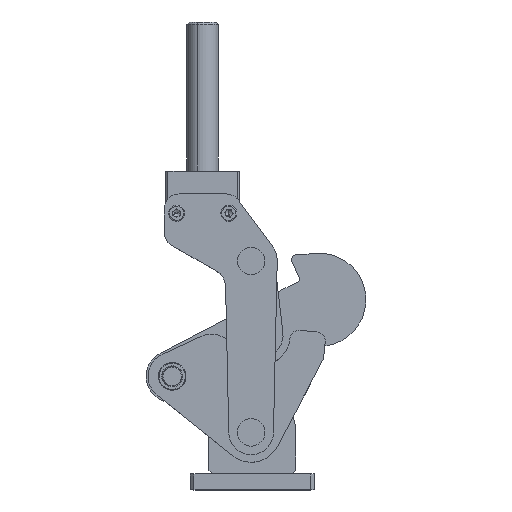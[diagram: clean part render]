
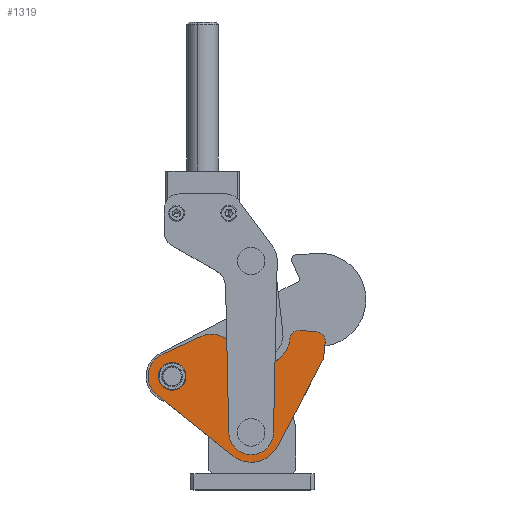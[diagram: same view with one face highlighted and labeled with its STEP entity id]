
A CAD part, top view. The second image highlights one B-rep face of the part: STEP entity #1319.
In plain terms, the highlighted planar face has unit normal (0, 0, 1).
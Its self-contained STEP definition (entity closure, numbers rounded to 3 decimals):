
#1319 = ADVANCED_FACE ( 'NONE', ( #5313, #5323, #5319 ), #6906, .T. ) ;
#1353 = VERTEX_POINT ( 'NONE', #7037 ) ;
#1355 = VERTEX_POINT ( 'NONE', #7040 ) ;
#1378 = VERTEX_POINT ( 'NONE', #6032 ) ;
#1429 = VERTEX_POINT ( 'NONE', #6748 ) ;
#1483 = VERTEX_POINT ( 'NONE', #6437 ) ;
#1508 = VERTEX_POINT ( 'NONE', #6576 ) ;
#1513 = VERTEX_POINT ( 'NONE', #6592 ) ;
#1526 = VERTEX_POINT ( 'NONE', #6652 ) ;
#1531 = VERTEX_POINT ( 'NONE', #6692 ) ;
#1540 = VERTEX_POINT ( 'NONE', #6740 ) ;
#1547 = VERTEX_POINT ( 'NONE', #6100 ) ;
#1558 = VERTEX_POINT ( 'NONE', #6837 ) ;
#1584 = VERTEX_POINT ( 'NONE', #7005 ) ;
#1590 = VERTEX_POINT ( 'NONE', #7035 ) ;
#1600 = VERTEX_POINT ( 'NONE', #8461 ) ;
#1610 = VERTEX_POINT ( 'NONE', #8472 ) ;
#1710 = ORIENTED_EDGE ( 'NONE', *, *, #2665, .T. ) ;
#1713 = ORIENTED_EDGE ( 'NONE', *, *, #2657, .T. ) ;
#1714 = ORIENTED_EDGE ( 'NONE', *, *, #2682, .T. ) ;
#1715 = ORIENTED_EDGE ( 'NONE', *, *, #2683, .T. ) ;
#1725 = ORIENTED_EDGE ( 'NONE', *, *, #2695, .T. ) ;
#1726 = ORIENTED_EDGE ( 'NONE', *, *, #2532, .T. ) ;
#1728 = ORIENTED_EDGE ( 'NONE', *, *, #2685, .T. ) ;
#1730 = ORIENTED_EDGE ( 'NONE', *, *, #2670, .T. ) ;
#1734 = ORIENTED_EDGE ( 'NONE', *, *, #2648, .T. ) ;
#1759 = ORIENTED_EDGE ( 'NONE', *, *, #2687, .T. ) ;
#1814 = ORIENTED_EDGE ( 'NONE', *, *, #2674, .T. ) ;
#1816 = ORIENTED_EDGE ( 'NONE', *, *, #2699, .F. ) ;
#1817 = ORIENTED_EDGE ( 'NONE', *, *, #2696, .T. ) ;
#1818 = ORIENTED_EDGE ( 'NONE', *, *, #2700, .F. ) ;
#1823 = ORIENTED_EDGE ( 'NONE', *, *, #2647, .F. ) ;
#1825 = ORIENTED_EDGE ( 'NONE', *, *, #2659, .F. ) ;
#2042 = AXIS2_PLACEMENT_3D ( 'NONE', #6900, #6894, #6914 ) ;
#2121 = AXIS2_PLACEMENT_3D ( 'NONE', #8629, #8668, #8673 ) ;
#2128 = VECTOR ( 'NONE', #8126, 1000. ) ;
#2204 = AXIS2_PLACEMENT_3D ( 'NONE', #7983, #7986, #7987 ) ;
#2206 = AXIS2_PLACEMENT_3D ( 'NONE', #7991, #7993, #7994 ) ;
#2215 = LINE ( 'NONE', #8124, #2128 ) ;
#2216 = AXIS2_PLACEMENT_3D ( 'NONE', #8021, #8024, #8026 ) ;
#2220 = AXIS2_PLACEMENT_3D ( 'NONE', #8036, #8038, #8039 ) ;
#2225 = AXIS2_PLACEMENT_3D ( 'NONE', #8053, #8054, #8056 ) ;
#2265 = CIRCLE ( 'NONE', #5739, 7.5 ) ;
#2280 = VECTOR ( 'NONE', #8092, 1000. ) ;
#2310 = LINE ( 'NONE', #8107, #2280 ) ;
#2355 = CIRCLE ( 'NONE', #5738, 19.5 ) ;
#2532 = EDGE_CURVE ( 'NONE', #1353, #1355, #9628, .T. ) ;
#2647 = EDGE_CURVE ( 'NONE', #1429, #1540, #9817, .T. ) ;
#2648 = EDGE_CURVE ( 'NONE', #1547, #1531, #9819, .T. ) ;
#2657 = EDGE_CURVE ( 'NONE', #1584, #1353, #9831, .T. ) ;
#2659 = EDGE_CURVE ( 'NONE', #1508, #1600, #9834, .T. ) ;
#2665 = EDGE_CURVE ( 'NONE', #1378, #1483, #9842, .T. ) ;
#2670 = EDGE_CURVE ( 'NONE', #1610, #1584, #9848, .T. ) ;
#2674 = EDGE_CURVE ( 'NONE', #1531, #1590, #5594, .T. ) ;
#2682 = EDGE_CURVE ( 'NONE', #1526, #1513, #2355, .T. ) ;
#2683 = EDGE_CURVE ( 'NONE', #1483, #1610, #2310, .T. ) ;
#2685 = EDGE_CURVE ( 'NONE', #1558, #1547, #2265, .T. ) ;
#2687 = EDGE_CURVE ( 'NONE', #1355, #1558, #2215, .T. ) ;
#2695 = EDGE_CURVE ( 'NONE', #1513, #1378, #3611, .T. ) ;
#2696 = EDGE_CURVE ( 'NONE', #1590, #1526, #3612, .T. ) ;
#2699 = EDGE_CURVE ( 'NONE', #1540, #1429, #3618, .T. ) ;
#2700 = EDGE_CURVE ( 'NONE', #1600, #1508, #3619, .T. ) ;
#3611 = LINE ( 'NONE', #8140, #3613 ) ;
#3612 = LINE ( 'NONE', #8149, #3615 ) ;
#3613 = VECTOR ( 'NONE', #8141, 1000. ) ;
#3615 = VECTOR ( 'NONE', #8150, 1000. ) ;
#3618 = CIRCLE ( 'NONE', #5745, 11.11 ) ;
#3619 = CIRCLE ( 'NONE', #5746, 11.11 ) ;
#5313 = FACE_BOUND ( 'NONE', #6483, .T. ) ;
#5319 = FACE_OUTER_BOUND ( 'NONE', #6495, .T. ) ;
#5323 = FACE_BOUND ( 'NONE', #6566, .T. ) ;
#5594 = CIRCLE ( 'NONE', #5733, 18.75 ) ;
#5669 = VECTOR ( 'NONE', #8058, 1000. ) ;
#5733 = AXIS2_PLACEMENT_3D ( 'NONE', #8081, #8082, #8083 ) ;
#5738 = AXIS2_PLACEMENT_3D ( 'NONE', #8113, #8115, #8116 ) ;
#5739 = AXIS2_PLACEMENT_3D ( 'NONE', #8121, #8122, #8123 ) ;
#5745 = AXIS2_PLACEMENT_3D ( 'NONE', #8161, #8162, #8163 ) ;
#5746 = AXIS2_PLACEMENT_3D ( 'NONE', #8164, #8165, #8166 ) ;
#6032 = CARTESIAN_POINT ( 'NONE',  ( -15.004, -18.732, 0. ) ) ;
#6100 = CARTESIAN_POINT ( 'NONE',  ( 31.191, 75.413, 0. ) ) ;
#6437 = CARTESIAN_POINT ( 'NONE',  ( 21.242, -11.171, 0. ) ) ;
#6483 = EDGE_LOOP ( 'NONE', ( #1816, #1823 ) ) ;
#6495 = EDGE_LOOP ( 'NONE', ( #1814, #1817, #1714, #1725, #1710, #1715, #1730, #1713, #1726, #1759, #1728, #1734 ) ) ;
#6566 = EDGE_LOOP ( 'NONE', ( #1818, #1825 ) ) ;
#6576 = CARTESIAN_POINT ( 'NONE',  ( -74.666, 45.143, 0. ) ) ;
#6592 = CARTESIAN_POINT ( 'NONE',  ( -75.747, 29.924, 0. ) ) ;
#6652 = CARTESIAN_POINT ( 'NONE',  ( -71.683, 62.869, 0. ) ) ;
#6692 = CARTESIAN_POINT ( 'NONE',  ( -14.686, 68.026, 0. ) ) ;
#6740 = CARTESIAN_POINT ( 'NONE',  ( 11.11, 0., 0. ) ) ;
#6748 = CARTESIAN_POINT ( 'NONE',  ( -11.11, 0., 0. ) ) ;
#6837 = CARTESIAN_POINT ( 'NONE',  ( 39.36, 82.178, 0. ) ) ;
#6894 = DIRECTION ( 'NONE',  ( 0., 0., 1. ) ) ;
#6900 = CARTESIAN_POINT ( 'NONE',  ( -31.86, 60.502, 0. ) ) ;
#6906 = PLANE ( 'NONE',  #2042 ) ;
#6914 = DIRECTION ( 'NONE',  ( 1., 0., 0. ) ) ;
#7005 = CARTESIAN_POINT ( 'NONE',  ( 59.566, 72.747, 0. ) ) ;
#7035 = CARTESIAN_POINT ( 'NONE',  ( -39.675, 77.545, 0. ) ) ;
#7037 = CARTESIAN_POINT ( 'NONE',  ( 59.599, 73.448, 0. ) ) ;
#7040 = CARTESIAN_POINT ( 'NONE',  ( 52.801, 80.916, 0. ) ) ;
#7983 = CARTESIAN_POINT ( 'NONE',  ( 0., 0., 0. ) ) ;
#7986 = DIRECTION ( 'NONE',  ( 0., 0., 1. ) ) ;
#7987 = DIRECTION ( 'NONE',  ( 1., 0., 0. ) ) ;
#7991 = CARTESIAN_POINT ( 'NONE',  ( 7.297, 77.658, 0. ) ) ;
#7993 = DIRECTION ( 'NONE',  ( 0., 0., -1. ) ) ;
#7994 = DIRECTION ( 'NONE',  ( 1., 0., 0. ) ) ;
#8021 = CARTESIAN_POINT ( 'NONE',  ( 52.099, 73.448, 0. ) ) ;
#8024 = DIRECTION ( 'NONE',  ( 0., 0., 1. ) ) ;
#8026 = DIRECTION ( 'NONE',  ( 1., 0., 0. ) ) ;
#8036 = CARTESIAN_POINT ( 'NONE',  ( -63.556, 45.143, 0. ) ) ;
#8038 = DIRECTION ( 'NONE',  ( 0., 0., 1. ) ) ;
#8039 = DIRECTION ( 'NONE',  ( 1., 0., 0. ) ) ;
#8053 = CARTESIAN_POINT ( 'NONE',  ( 0., 0., 0. ) ) ;
#8054 = DIRECTION ( 'NONE',  ( 0., 0., 1. ) ) ;
#8056 = DIRECTION ( 'NONE',  ( 1., 0., 0. ) ) ;
#8058 = DIRECTION ( 'NONE',  ( 0.094, 0.996, 0. ) ) ;
#8063 = CARTESIAN_POINT ( 'NONE',  ( 59.566, 72.747, 0. ) ) ;
#8081 = CARTESIAN_POINT ( 'NONE',  ( -31.86, 60.502, 0. ) ) ;
#8082 = DIRECTION ( 'NONE',  ( 0., 0., 1. ) ) ;
#8083 = DIRECTION ( 'NONE',  ( 1., 0., 0. ) ) ;
#8092 = DIRECTION ( 'NONE',  ( 0.465, 0.885, 0. ) ) ;
#8107 = CARTESIAN_POINT ( 'NONE',  ( 58.303, 59.306, 0. ) ) ;
#8113 = CARTESIAN_POINT ( 'NONE',  ( -63.556, 45.143, 0. ) ) ;
#8115 = DIRECTION ( 'NONE',  ( 0., 0., 1. ) ) ;
#8116 = DIRECTION ( 'NONE',  ( 1., 0., 0. ) ) ;
#8121 = CARTESIAN_POINT ( 'NONE',  ( 38.658, 74.711, 0. ) ) ;
#8122 = DIRECTION ( 'NONE',  ( 0., 0., 1. ) ) ;
#8123 = DIRECTION ( 'NONE',  ( 1., 0., 0. ) ) ;
#8124 = CARTESIAN_POINT ( 'NONE',  ( 39.36, 82.178, 0. ) ) ;
#8126 = DIRECTION ( 'NONE',  ( -0.996, 0.094, 0. ) ) ;
#8140 = CARTESIAN_POINT ( 'NONE',  ( -15.004, -18.732, 0. ) ) ;
#8141 = DIRECTION ( 'NONE',  ( 0.78, -0.625, 0. ) ) ;
#8149 = CARTESIAN_POINT ( 'NONE',  ( -71.683, 62.869, 0. ) ) ;
#8150 = DIRECTION ( 'NONE',  ( -0.909, -0.417, 0. ) ) ;
#8161 = CARTESIAN_POINT ( 'NONE',  ( 0., 0., 0. ) ) ;
#8162 = DIRECTION ( 'NONE',  ( 0., 0., 1. ) ) ;
#8163 = DIRECTION ( 'NONE',  ( 1., 0., 0. ) ) ;
#8164 = CARTESIAN_POINT ( 'NONE',  ( -63.556, 45.143, 0. ) ) ;
#8165 = DIRECTION ( 'NONE',  ( 0., 0., 1. ) ) ;
#8166 = DIRECTION ( 'NONE',  ( 1., 0., 0. ) ) ;
#8461 = CARTESIAN_POINT ( 'NONE',  ( -52.446, 45.143, 0. ) ) ;
#8472 = CARTESIAN_POINT ( 'NONE',  ( 58.303, 59.306, 0. ) ) ;
#8629 = CARTESIAN_POINT ( 'NONE',  ( 52.099, 73.448, 0. ) ) ;
#8668 = DIRECTION ( 'NONE',  ( 0., 0., 1. ) ) ;
#8673 = DIRECTION ( 'NONE',  ( 1., 0., 0. ) ) ;
#9628 = CIRCLE ( 'NONE', #2121, 7.5 ) ;
#9817 = CIRCLE ( 'NONE', #2204, 11.11 ) ;
#9819 = CIRCLE ( 'NONE', #2206, 24. ) ;
#9831 = CIRCLE ( 'NONE', #2216, 7.5 ) ;
#9834 = CIRCLE ( 'NONE', #2220, 11.11 ) ;
#9842 = CIRCLE ( 'NONE', #2225, 24. ) ;
#9848 = LINE ( 'NONE', #8063, #5669 ) ;
